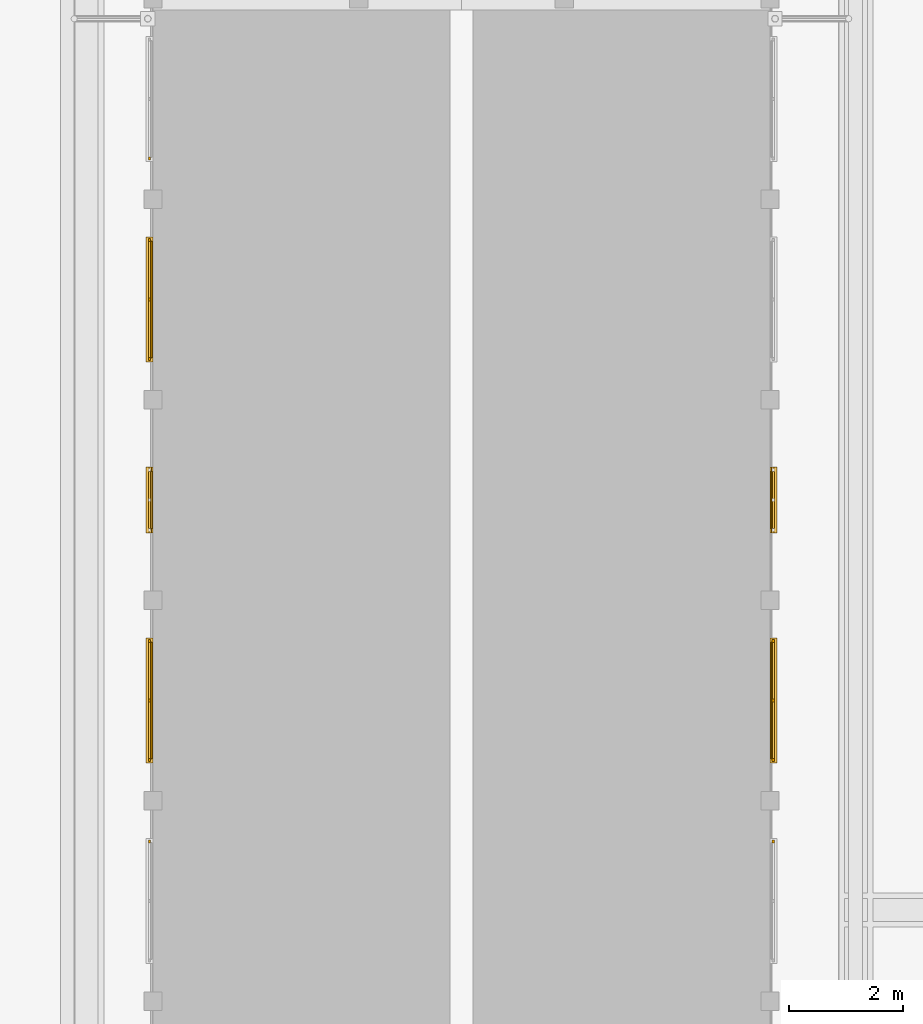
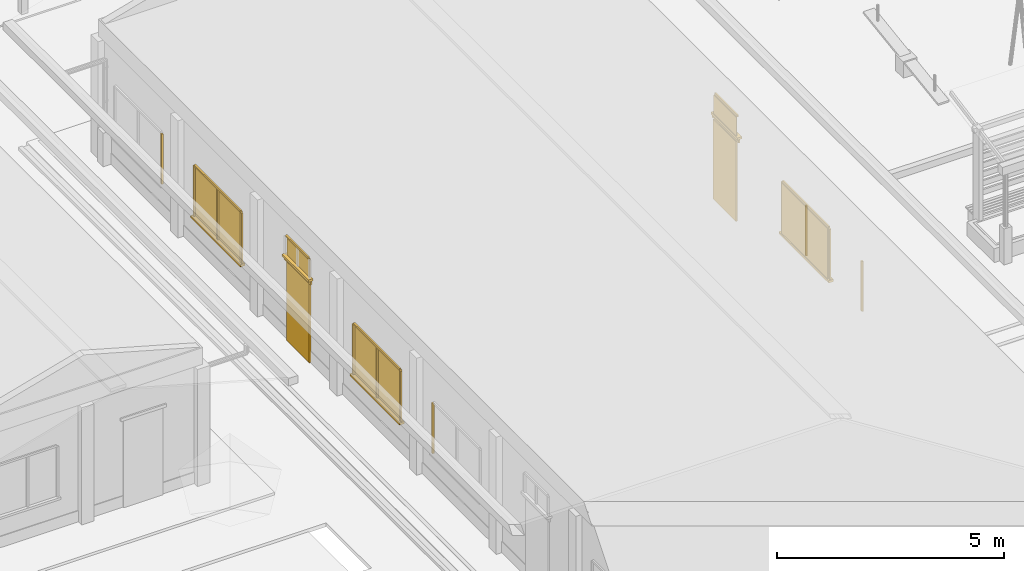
# One storey, part 56 of 177: 27 windows, 4 doors.
"""IFC4 building model written with IfcOpenShell, lengths in metres."""

from ifc_helpers import new_model, si_unit, origin, origin_with_axes, place, context, subcontext, project, spatial, triangles, element, save


model = new_model("IFC4")

# Units and contexts
model_context = context("Model", 3, precision=1e-05, world=origin_with_axes())
body_context = subcontext(model_context, "Body", "Model", "MODEL_VIEW")
ifc_project = project(units=[si_unit("LENGTHUNIT", "METRE"), si_unit("AREAUNIT", "SQUARE_METRE"), si_unit("VOLUMEUNIT", "CUBIC_METRE"), si_unit("PLANEANGLEUNIT", "RADIAN")], contexts=[model_context])

# Site, building, storey
site_placement = place(None, origin_with_axes())
site = spatial("IfcSite", under=ifc_project, at=site_placement, Name="Predio Los Mangos - Morales, San Martín", CompositionType="ELEMENT")
building_placement = place(site_placement, origin())
building = spatial("IfcBuilding", under=site, at=building_placement, Name="Hogar de Refugio Temporal", CompositionType="ELEMENT")
storey_placement = place(building_placement, origin())
storey = spatial("IfcBuildingStorey", under=building, at=storey_placement, Name="NIVEL 1 (NPT +0.00)", CompositionType="ELEMENT", Elevation=0.0)

# Windows
window_1_placement = place(storey_placement, origin())
element("IfcWindow", 1, at=window_1_placement, inside=storey, Name="E-04_v5_m", ObjectType="Ventana", PredefinedType="WINDOW", context=body_context, shape_type="Tessellation", body=[
    triangles([(13.72, 72.4229, 1.05), (13.76, 72.4229, 1.05), (13.76, 72.4729, 1.05), (13.72, 72.4729, 1.05), (13.72, 72.4229, 2.4), (13.76, 72.4229, 2.4), (13.76, 72.4729, 2.4), (13.72, 72.4729, 2.4)], [[1, 4, 3], [1, 3, 2], [5, 6, 7], [5, 7, 8], [1, 2, 6], [1, 6, 5], [2, 3, 7], [2, 7, 6], [3, 4, 8], [3, 8, 7], [4, 1, 5], [4, 5, 8]]),
])
window_2_placement = place(storey_placement, origin())
element("IfcWindow", 2, at=window_2_placement, inside=storey, Name="E-04_v6_vid", ObjectType="Ventana", PredefinedType="WINDOW", context=body_context, shape_type="Tessellation", body=[
    triangles([(13.76, 73.8971, 1.05), (13.78, 73.8971, 1.05), (13.78, 75.9329, 1.05), (13.76, 75.9329, 1.05), (13.76, 73.8971, 2.4), (13.78, 73.8971, 2.4), (13.78, 75.9329, 2.4), (13.76, 75.9329, 2.4)], [[1, 4, 3], [1, 3, 2], [5, 6, 7], [5, 7, 8], [1, 2, 6], [1, 6, 5], [2, 3, 7], [2, 7, 6], [3, 4, 8], [3, 8, 7], [4, 1, 5], [4, 5, 8]]),
])
window_3_placement = place(storey_placement, origin())
element("IfcWindow", 3, at=window_3_placement, inside=storey, Name="E-04_v6_m", ObjectType="Ventana", PredefinedType="WINDOW", context=body_context, shape_type="Tessellation", body=[
    triangles([(13.72, 73.8471, 1.05), (13.76, 73.8471, 1.05), (13.76, 73.8971, 1.05), (13.72, 73.8971, 1.05), (13.72, 73.8471, 2.4), (13.76, 73.8471, 2.4), (13.76, 73.8971, 2.4), (13.72, 73.8971, 2.4)], [[1, 4, 3], [1, 3, 2], [5, 6, 7], [5, 7, 8], [1, 2, 6], [1, 6, 5], [2, 3, 7], [2, 7, 6], [3, 4, 8], [3, 8, 7], [4, 1, 5], [4, 5, 8]]),
])
window_4_placement = place(storey_placement, origin())
element("IfcWindow", 4, at=window_4_placement, inside=storey, Name="E-04_v6_m", ObjectType="Ventana", PredefinedType="WINDOW", context=body_context, shape_type="Tessellation", body=[
    triangles([(13.72, 75.9329, 1.05), (13.76, 75.9329, 1.05), (13.76, 75.9829, 1.05), (13.72, 75.9829, 1.05), (13.72, 75.9329, 2.4), (13.76, 75.9329, 2.4), (13.76, 75.9829, 2.4), (13.72, 75.9829, 2.4)], [[1, 4, 3], [1, 3, 2], [5, 6, 7], [5, 7, 8], [1, 2, 6], [1, 6, 5], [2, 3, 7], [2, 7, 6], [3, 4, 8], [3, 8, 7], [4, 1, 5], [4, 5, 8]]),
])
window_5_placement = place(storey_placement, origin())
element("IfcWindow", 5, at=window_5_placement, inside=storey, Name="E-04_v6_m", ObjectType="Ventana", PredefinedType="WINDOW", context=body_context, shape_type="Tessellation", body=[
    triangles([(13.72, 73.8971, 2.4), (13.76, 73.8971, 2.4), (13.76, 75.9329, 2.4), (13.72, 75.9329, 2.4), (13.72, 73.8971, 2.45), (13.76, 73.8971, 2.45), (13.76, 75.9329, 2.45), (13.72, 75.9329, 2.45)], [[1, 4, 3], [1, 3, 2], [5, 6, 7], [5, 7, 8], [1, 2, 6], [1, 6, 5], [2, 3, 7], [2, 7, 6], [3, 4, 8], [3, 8, 7], [4, 1, 5], [4, 5, 8]]),
])
window_6_placement = place(storey_placement, origin())
element("IfcWindow", 6, at=window_6_placement, inside=storey, Name="E-04_v6_m", ObjectType="Ventana", PredefinedType="WINDOW", context=body_context, shape_type="Tessellation", body=[
    triangles([(13.72, 74.89, 1.05), (13.76, 74.89, 1.05), (13.76, 74.94, 1.05), (13.72, 74.94, 1.05), (13.72, 74.89, 2.4), (13.76, 74.89, 2.4), (13.76, 74.94, 2.4), (13.72, 74.94, 2.4)], [[1, 4, 3], [1, 3, 2], [5, 6, 7], [5, 7, 8], [1, 2, 6], [1, 6, 5], [2, 3, 7], [2, 7, 6], [3, 4, 8], [3, 8, 7], [4, 1, 5], [4, 5, 8]]),
])
window_7_placement = place(storey_placement, origin())
element("IfcWindow", 7, at=window_7_placement, inside=storey, Name="E-04_v6_alf", ObjectType="Ventana", PredefinedType="WINDOW", context=body_context, shape_type="Tessellation", body=[
    triangles([(13.8, 73.8171, 0.99), (13.68, 73.8171, 0.99), (13.68, 76.0129, 0.99), (13.8, 76.0129, 0.99), (13.8, 73.8171, 1.05), (13.68, 73.8171, 1.05), (13.68, 76.0129, 1.05), (13.8, 76.0129, 1.05)], [[1, 4, 3], [1, 3, 2], [5, 6, 7], [5, 7, 8], [1, 2, 6], [1, 6, 5], [2, 3, 7], [2, 7, 6], [3, 4, 8], [3, 8, 7], [4, 1, 5], [4, 5, 8]]),
])

# Doors
door_1_placement = place(storey_placement, origin())
element("IfcDoor", 8, at=door_1_placement, inside=storey, Name="E-04_p7", ObjectType="Puerta", PredefinedType="DOOR", context=body_context, shape_type="Tessellation", body=[
    triangles([(13.75, 77.925, 0.15), (13.79, 77.925, 0.15), (13.79, 78.925, 0.15), (13.75, 78.925, 0.15), (13.75, 77.925, 2.3), (13.79, 77.925, 2.3), (13.79, 78.925, 2.3), (13.75, 78.925, 2.3)], [[1, 4, 3], [1, 3, 2], [5, 6, 7], [5, 7, 8], [1, 2, 6], [1, 6, 5], [2, 3, 7], [2, 7, 6], [3, 4, 8], [3, 8, 7], [4, 1, 5], [4, 5, 8]]),
])
door_2_placement = place(storey_placement, origin())
element("IfcDoor", 9, at=door_2_placement, inside=storey, Name="E-04_p7_marco", ObjectType="Puerta", PredefinedType="DOOR", context=body_context, shape_type="Tessellation", body=[
    triangles([(13.73, 77.845, 2.3), (13.77, 77.845, 2.3), (13.77, 79.005, 2.3), (13.73, 79.005, 2.3), (13.73, 77.845, 2.38), (13.77, 77.845, 2.38), (13.77, 79.005, 2.38), (13.73, 79.005, 2.38)], [[1, 4, 3], [1, 3, 2], [5, 6, 7], [5, 7, 8], [1, 2, 6], [1, 6, 5], [2, 3, 7], [2, 7, 6], [3, 4, 8], [3, 8, 7], [4, 1, 5], [4, 5, 8]]),
])

# Windows
window_8_placement = place(storey_placement, origin())
element("IfcWindow", 10, at=window_8_placement, inside=storey, Name="E-04_vt7_vid", ObjectType="Ventana", PredefinedType="WINDOW", context=body_context, shape_type="Tessellation", body=[
    triangles([(13.76, 77.925, 2.45), (13.78, 77.925, 2.45), (13.78, 78.925, 2.45), (13.76, 78.925, 2.45), (13.76, 77.925, 2.95), (13.78, 77.925, 2.95), (13.78, 78.925, 2.95), (13.76, 78.925, 2.95)], [[1, 4, 3], [1, 3, 2], [5, 6, 7], [5, 7, 8], [1, 2, 6], [1, 6, 5], [2, 3, 7], [2, 7, 6], [3, 4, 8], [3, 8, 7], [4, 1, 5], [4, 5, 8]]),
])
window_9_placement = place(storey_placement, origin())
element("IfcWindow", 11, at=window_9_placement, inside=storey, Name="E-04_vt7_m", ObjectType="Ventana", PredefinedType="WINDOW", context=body_context, shape_type="Tessellation", body=[
    triangles([(13.72, 77.925, 2.95), (13.76, 77.925, 2.95), (13.76, 78.925, 2.95), (13.72, 78.925, 2.95), (13.72, 77.925, 3.0), (13.76, 77.925, 3.0), (13.76, 78.925, 3.0), (13.72, 78.925, 3.0)], [[1, 4, 3], [1, 3, 2], [5, 6, 7], [5, 7, 8], [1, 2, 6], [1, 6, 5], [2, 3, 7], [2, 7, 6], [3, 4, 8], [3, 8, 7], [4, 1, 5], [4, 5, 8]]),
])
window_10_placement = place(storey_placement, origin())
element("IfcWindow", 12, at=window_10_placement, inside=storey, Name="E-04_vt7_alf", ObjectType="Ventana", PredefinedType="WINDOW", context=body_context, shape_type="Tessellation", body=[
    triangles([(13.8, 77.845, 2.39), (13.68, 77.845, 2.39), (13.68, 79.005, 2.39), (13.8, 79.005, 2.39), (13.8, 77.845, 2.45), (13.68, 77.845, 2.45), (13.68, 79.005, 2.45), (13.8, 79.005, 2.45)], [[1, 4, 3], [1, 3, 2], [5, 6, 7], [5, 7, 8], [1, 2, 6], [1, 6, 5], [2, 3, 7], [2, 7, 6], [3, 4, 8], [3, 8, 7], [4, 1, 5], [4, 5, 8]]),
])
window_11_placement = place(storey_placement, origin())
element("IfcWindow", 13, at=window_11_placement, inside=storey, Name="E-04_v8_vid", ObjectType="Ventana", PredefinedType="WINDOW", context=body_context, shape_type="Tessellation", body=[
    triangles([(13.76, 80.9171, 1.05), (13.78, 80.9171, 1.05), (13.78, 82.9529, 1.05), (13.76, 82.9529, 1.05), (13.76, 80.9171, 2.4), (13.78, 80.9171, 2.4), (13.78, 82.9529, 2.4), (13.76, 82.9529, 2.4)], [[1, 4, 3], [1, 3, 2], [5, 6, 7], [5, 7, 8], [1, 2, 6], [1, 6, 5], [2, 3, 7], [2, 7, 6], [3, 4, 8], [3, 8, 7], [4, 1, 5], [4, 5, 8]]),
])
window_12_placement = place(storey_placement, origin())
element("IfcWindow", 14, at=window_12_placement, inside=storey, Name="E-04_v8_m", ObjectType="Ventana", PredefinedType="WINDOW", context=body_context, shape_type="Tessellation", body=[
    triangles([(13.72, 80.8671, 1.05), (13.76, 80.8671, 1.05), (13.76, 80.9171, 1.05), (13.72, 80.9171, 1.05), (13.72, 80.8671, 2.4), (13.76, 80.8671, 2.4), (13.76, 80.9171, 2.4), (13.72, 80.9171, 2.4)], [[1, 4, 3], [1, 3, 2], [5, 6, 7], [5, 7, 8], [1, 2, 6], [1, 6, 5], [2, 3, 7], [2, 7, 6], [3, 4, 8], [3, 8, 7], [4, 1, 5], [4, 5, 8]]),
])
window_13_placement = place(storey_placement, origin())
element("IfcWindow", 15, at=window_13_placement, inside=storey, Name="E-04_v8_m", ObjectType="Ventana", PredefinedType="WINDOW", context=body_context, shape_type="Tessellation", body=[
    triangles([(13.72, 82.9529, 1.05), (13.76, 82.9529, 1.05), (13.76, 83.0029, 1.05), (13.72, 83.0029, 1.05), (13.72, 82.9529, 2.4), (13.76, 82.9529, 2.4), (13.76, 83.0029, 2.4), (13.72, 83.0029, 2.4)], [[1, 4, 3], [1, 3, 2], [5, 6, 7], [5, 7, 8], [1, 2, 6], [1, 6, 5], [2, 3, 7], [2, 7, 6], [3, 4, 8], [3, 8, 7], [4, 1, 5], [4, 5, 8]]),
])
window_14_placement = place(storey_placement, origin())
element("IfcWindow", 16, at=window_14_placement, inside=storey, Name="E-04_v8_m", ObjectType="Ventana", PredefinedType="WINDOW", context=body_context, shape_type="Tessellation", body=[
    triangles([(13.72, 80.9171, 2.4), (13.76, 80.9171, 2.4), (13.76, 82.9529, 2.4), (13.72, 82.9529, 2.4), (13.72, 80.9171, 2.45), (13.76, 80.9171, 2.45), (13.76, 82.9529, 2.45), (13.72, 82.9529, 2.45)], [[1, 4, 3], [1, 3, 2], [5, 6, 7], [5, 7, 8], [1, 2, 6], [1, 6, 5], [2, 3, 7], [2, 7, 6], [3, 4, 8], [3, 8, 7], [4, 1, 5], [4, 5, 8]]),
])
window_15_placement = place(storey_placement, origin())
element("IfcWindow", 17, at=window_15_placement, inside=storey, Name="E-04_v8_m", ObjectType="Ventana", PredefinedType="WINDOW", context=body_context, shape_type="Tessellation", body=[
    triangles([(13.72, 81.91, 1.05), (13.76, 81.91, 1.05), (13.76, 81.96, 1.05), (13.72, 81.96, 1.05), (13.72, 81.91, 2.4), (13.76, 81.91, 2.4), (13.76, 81.96, 2.4), (13.72, 81.96, 2.4)], [[1, 4, 3], [1, 3, 2], [5, 6, 7], [5, 7, 8], [1, 2, 6], [1, 6, 5], [2, 3, 7], [2, 7, 6], [3, 4, 8], [3, 8, 7], [4, 1, 5], [4, 5, 8]]),
])
window_16_placement = place(storey_placement, origin())
element("IfcWindow", 18, at=window_16_placement, inside=storey, Name="E-04_v8_alf", ObjectType="Ventana", PredefinedType="WINDOW", context=body_context, shape_type="Tessellation", body=[
    triangles([(13.8, 80.8371, 0.99), (13.68, 80.8371, 0.99), (13.68, 83.0329, 0.99), (13.8, 83.0329, 0.99), (13.8, 80.8371, 1.05), (13.68, 80.8371, 1.05), (13.68, 83.0329, 1.05), (13.8, 83.0329, 1.05)], [[1, 4, 3], [1, 3, 2], [5, 6, 7], [5, 7, 8], [1, 2, 6], [1, 6, 5], [2, 3, 7], [2, 7, 6], [3, 4, 8], [3, 8, 7], [4, 1, 5], [4, 5, 8]]),
])
window_17_placement = place(storey_placement, origin())
element("IfcWindow", 19, at=window_17_placement, inside=storey, Name="E-04_v9_m", ObjectType="Ventana", PredefinedType="WINDOW", context=body_context, shape_type="Tessellation", body=[
    triangles([(13.72, 84.3771, 1.05), (13.76, 84.3771, 1.05), (13.76, 84.4271, 1.05), (13.72, 84.4271, 1.05), (13.72, 84.3771, 2.4), (13.76, 84.3771, 2.4), (13.76, 84.4271, 2.4), (13.72, 84.4271, 2.4)], [[1, 4, 3], [1, 3, 2], [5, 6, 7], [5, 7, 8], [1, 2, 6], [1, 6, 5], [2, 3, 7], [2, 7, 6], [3, 4, 8], [3, 8, 7], [4, 1, 5], [4, 5, 8]]),
])
window_18_placement = place(storey_placement, origin())
element("IfcWindow", 20, at=window_18_placement, inside=storey, Name="E-04_v5_m", ObjectType="Ventana", PredefinedType="WINDOW", context=body_context, shape_type="Tessellation", body=[
    triangles([(24.64, 72.4229, 1.05), (24.68, 72.4229, 1.05), (24.68, 72.4729, 1.05), (24.64, 72.4729, 1.05), (24.64, 72.4229, 2.4), (24.68, 72.4229, 2.4), (24.68, 72.4729, 2.4), (24.64, 72.4729, 2.4)], [[1, 4, 3], [1, 3, 2], [5, 6, 7], [5, 7, 8], [1, 2, 6], [1, 6, 5], [2, 3, 7], [2, 7, 6], [3, 4, 8], [3, 8, 7], [4, 1, 5], [4, 5, 8]]),
])
window_19_placement = place(storey_placement, origin())
element("IfcWindow", 21, at=window_19_placement, inside=storey, Name="E-04_v6_vid", ObjectType="Ventana", PredefinedType="WINDOW", context=body_context, shape_type="Tessellation", body=[
    triangles([(24.62, 73.8971, 1.05), (24.64, 73.8971, 1.05), (24.64, 75.9329, 1.05), (24.62, 75.9329, 1.05), (24.62, 73.8971, 2.4), (24.64, 73.8971, 2.4), (24.64, 75.9329, 2.4), (24.62, 75.9329, 2.4)], [[1, 4, 3], [1, 3, 2], [5, 6, 7], [5, 7, 8], [1, 2, 6], [1, 6, 5], [2, 3, 7], [2, 7, 6], [3, 4, 8], [3, 8, 7], [4, 1, 5], [4, 5, 8]]),
])
window_20_placement = place(storey_placement, origin())
element("IfcWindow", 22, at=window_20_placement, inside=storey, Name="E-04_v6_m", ObjectType="Ventana", PredefinedType="WINDOW", context=body_context, shape_type="Tessellation", body=[
    triangles([(24.64, 73.8471, 1.05), (24.68, 73.8471, 1.05), (24.68, 73.8971, 1.05), (24.64, 73.8971, 1.05), (24.64, 73.8471, 2.4), (24.68, 73.8471, 2.4), (24.68, 73.8971, 2.4), (24.64, 73.8971, 2.4)], [[1, 4, 3], [1, 3, 2], [5, 6, 7], [5, 7, 8], [1, 2, 6], [1, 6, 5], [2, 3, 7], [2, 7, 6], [3, 4, 8], [3, 8, 7], [4, 1, 5], [4, 5, 8]]),
])
window_21_placement = place(storey_placement, origin())
element("IfcWindow", 23, at=window_21_placement, inside=storey, Name="E-04_v6_m", ObjectType="Ventana", PredefinedType="WINDOW", context=body_context, shape_type="Tessellation", body=[
    triangles([(24.64, 75.9329, 1.05), (24.68, 75.9329, 1.05), (24.68, 75.9829, 1.05), (24.64, 75.9829, 1.05), (24.64, 75.9329, 2.4), (24.68, 75.9329, 2.4), (24.68, 75.9829, 2.4), (24.64, 75.9829, 2.4)], [[1, 4, 3], [1, 3, 2], [5, 6, 7], [5, 7, 8], [1, 2, 6], [1, 6, 5], [2, 3, 7], [2, 7, 6], [3, 4, 8], [3, 8, 7], [4, 1, 5], [4, 5, 8]]),
])
window_22_placement = place(storey_placement, origin())
element("IfcWindow", 24, at=window_22_placement, inside=storey, Name="E-04_v6_m", ObjectType="Ventana", PredefinedType="WINDOW", context=body_context, shape_type="Tessellation", body=[
    triangles([(24.64, 73.8971, 2.4), (24.68, 73.8971, 2.4), (24.68, 75.9329, 2.4), (24.64, 75.9329, 2.4), (24.64, 73.8971, 2.45), (24.68, 73.8971, 2.45), (24.68, 75.9329, 2.45), (24.64, 75.9329, 2.45)], [[1, 4, 3], [1, 3, 2], [5, 6, 7], [5, 7, 8], [1, 2, 6], [1, 6, 5], [2, 3, 7], [2, 7, 6], [3, 4, 8], [3, 8, 7], [4, 1, 5], [4, 5, 8]]),
])
window_23_placement = place(storey_placement, origin())
element("IfcWindow", 25, at=window_23_placement, inside=storey, Name="E-04_v6_m", ObjectType="Ventana", PredefinedType="WINDOW", context=body_context, shape_type="Tessellation", body=[
    triangles([(24.64, 74.89, 1.05), (24.68, 74.89, 1.05), (24.68, 74.94, 1.05), (24.64, 74.94, 1.05), (24.64, 74.89, 2.4), (24.68, 74.89, 2.4), (24.68, 74.94, 2.4), (24.64, 74.94, 2.4)], [[1, 4, 3], [1, 3, 2], [5, 6, 7], [5, 7, 8], [1, 2, 6], [1, 6, 5], [2, 3, 7], [2, 7, 6], [3, 4, 8], [3, 8, 7], [4, 1, 5], [4, 5, 8]]),
])
window_24_placement = place(storey_placement, origin())
element("IfcWindow", 26, at=window_24_placement, inside=storey, Name="E-04_v6_alf", ObjectType="Ventana", PredefinedType="WINDOW", context=body_context, shape_type="Tessellation", body=[
    triangles([(24.6, 73.8171, 0.99), (24.72, 73.8171, 0.99), (24.72, 76.0129, 0.99), (24.6, 76.0129, 0.99), (24.6, 73.8171, 1.05), (24.72, 73.8171, 1.05), (24.72, 76.0129, 1.05), (24.6, 76.0129, 1.05)], [[1, 4, 3], [1, 3, 2], [5, 6, 7], [5, 7, 8], [1, 2, 6], [1, 6, 5], [2, 3, 7], [2, 7, 6], [3, 4, 8], [3, 8, 7], [4, 1, 5], [4, 5, 8]]),
])

# Doors
door_3_placement = place(storey_placement, origin())
element("IfcDoor", 27, at=door_3_placement, inside=storey, Name="E-04_p7", ObjectType="Puerta", PredefinedType="DOOR", context=body_context, shape_type="Tessellation", body=[
    triangles([(24.61, 77.925, 0.15), (24.65, 77.925, 0.15), (24.65, 78.925, 0.15), (24.61, 78.925, 0.15), (24.61, 77.925, 2.3), (24.65, 77.925, 2.3), (24.65, 78.925, 2.3), (24.61, 78.925, 2.3)], [[1, 4, 3], [1, 3, 2], [5, 6, 7], [5, 7, 8], [1, 2, 6], [1, 6, 5], [2, 3, 7], [2, 7, 6], [3, 4, 8], [3, 8, 7], [4, 1, 5], [4, 5, 8]]),
])
door_4_placement = place(storey_placement, origin())
element("IfcDoor", 28, at=door_4_placement, inside=storey, Name="E-04_p7_marco", ObjectType="Puerta", PredefinedType="DOOR", context=body_context, shape_type="Tessellation", body=[
    triangles([(24.63, 77.845, 2.3), (24.67, 77.845, 2.3), (24.67, 79.005, 2.3), (24.63, 79.005, 2.3), (24.63, 77.845, 2.38), (24.67, 77.845, 2.38), (24.67, 79.005, 2.38), (24.63, 79.005, 2.38)], [[1, 4, 3], [1, 3, 2], [5, 6, 7], [5, 7, 8], [1, 2, 6], [1, 6, 5], [2, 3, 7], [2, 7, 6], [3, 4, 8], [3, 8, 7], [4, 1, 5], [4, 5, 8]]),
])

# Windows
window_25_placement = place(storey_placement, origin())
element("IfcWindow", 29, at=window_25_placement, inside=storey, Name="E-04_vt7_vid", ObjectType="Ventana", PredefinedType="WINDOW", context=body_context, shape_type="Tessellation", body=[
    triangles([(24.62, 77.925, 2.45), (24.64, 77.925, 2.45), (24.64, 78.925, 2.45), (24.62, 78.925, 2.45), (24.62, 77.925, 2.95), (24.64, 77.925, 2.95), (24.64, 78.925, 2.95), (24.62, 78.925, 2.95)], [[1, 4, 3], [1, 3, 2], [5, 6, 7], [5, 7, 8], [1, 2, 6], [1, 6, 5], [2, 3, 7], [2, 7, 6], [3, 4, 8], [3, 8, 7], [4, 1, 5], [4, 5, 8]]),
])
window_26_placement = place(storey_placement, origin())
element("IfcWindow", 30, at=window_26_placement, inside=storey, Name="E-04_vt7_m", ObjectType="Ventana", PredefinedType="WINDOW", context=body_context, shape_type="Tessellation", body=[
    triangles([(24.64, 77.925, 2.95), (24.68, 77.925, 2.95), (24.68, 78.925, 2.95), (24.64, 78.925, 2.95), (24.64, 77.925, 3.0), (24.68, 77.925, 3.0), (24.68, 78.925, 3.0), (24.64, 78.925, 3.0)], [[1, 4, 3], [1, 3, 2], [5, 6, 7], [5, 7, 8], [1, 2, 6], [1, 6, 5], [2, 3, 7], [2, 7, 6], [3, 4, 8], [3, 8, 7], [4, 1, 5], [4, 5, 8]]),
])
window_27_placement = place(storey_placement, origin())
element("IfcWindow", 31, at=window_27_placement, inside=storey, Name="E-04_vt7_alf", ObjectType="Ventana", PredefinedType="WINDOW", context=body_context, shape_type="Tessellation", body=[
    triangles([(24.6, 77.845, 2.39), (24.72, 77.845, 2.39), (24.72, 79.005, 2.39), (24.6, 79.005, 2.39), (24.6, 77.845, 2.45), (24.72, 77.845, 2.45), (24.72, 79.005, 2.45), (24.6, 79.005, 2.45)], [[1, 4, 3], [1, 3, 2], [5, 6, 7], [5, 7, 8], [1, 2, 6], [1, 6, 5], [2, 3, 7], [2, 7, 6], [3, 4, 8], [3, 8, 7], [4, 1, 5], [4, 5, 8]]),
])

save(model, "model.ifc")
